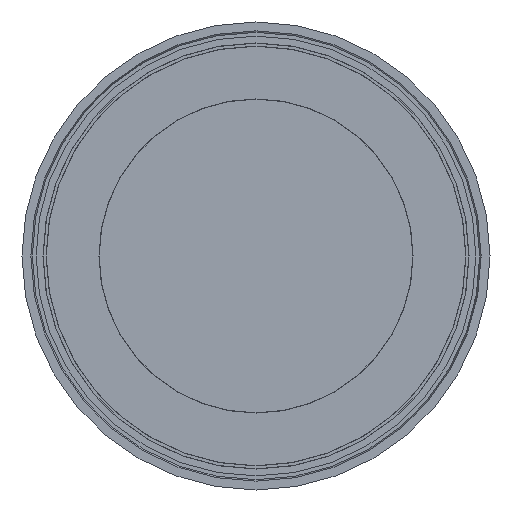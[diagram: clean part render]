
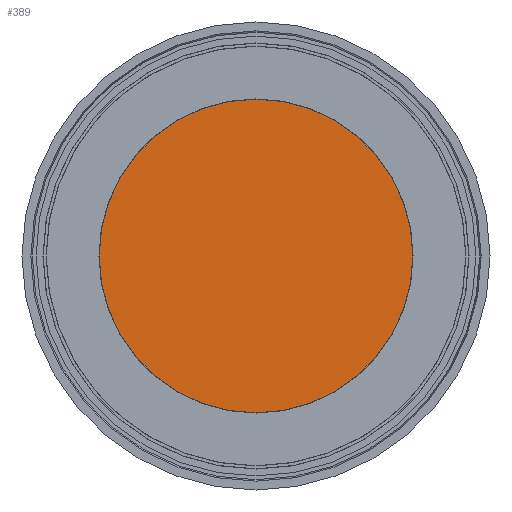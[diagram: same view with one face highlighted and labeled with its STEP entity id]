
A CAD part, left-side view. The second image highlights one B-rep face of the part: STEP entity #389.
In plain terms, the highlighted planar face has unit normal (-1, 0, 0).
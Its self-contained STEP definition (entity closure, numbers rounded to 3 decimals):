
#298=CIRCLE('',#1544,14.98);
#389=ADVANCED_FACE('',(#506),#473,.F.);
#473=PLANE('',#1546);
#506=FACE_OUTER_BOUND('',#639,.T.);
#639=EDGE_LOOP('',(#882));
#882=ORIENTED_EDGE('',*,*,#1293,.F.);
#1162=VERTEX_POINT('',#2521);
#1293=EDGE_CURVE('',#1162,#1162,#298,.T.);
#1544=AXIS2_PLACEMENT_3D('',#2520,#1841,#1842);
#1546=AXIS2_PLACEMENT_3D('',#2523,#1845,#1846);
#1841=DIRECTION('',(1.,0.,0.));
#1842=DIRECTION('',(0.,0.,-1.));
#1845=DIRECTION('',(1.,0.,0.));
#1846=DIRECTION('',(0.,0.,1.));
#2520=CARTESIAN_POINT('',(-35.5,0.,0.));
#2521=CARTESIAN_POINT('',(-35.5,0.,-14.98));
#2523=CARTESIAN_POINT('',(-35.5,0.,0.));
